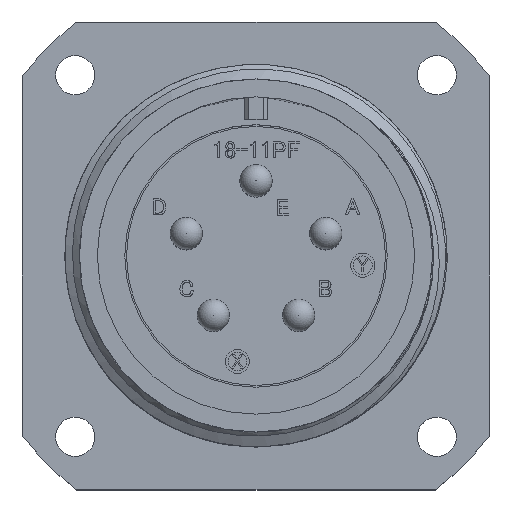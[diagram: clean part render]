
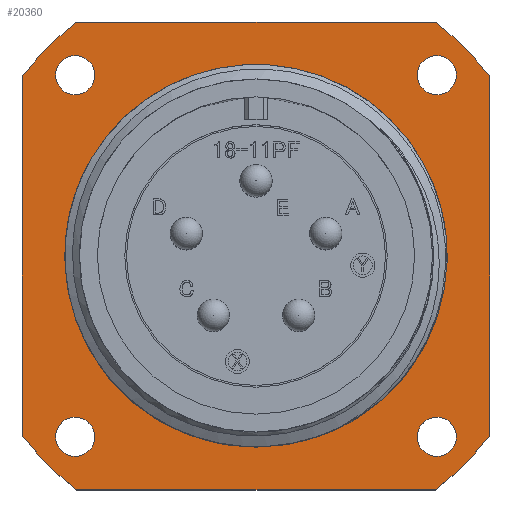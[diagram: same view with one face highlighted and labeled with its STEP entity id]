
A CAD part, top view. The second image highlights one B-rep face of the part: STEP entity #20360.
In plain terms, the highlighted planar face has unit normal (0, 0, 1).
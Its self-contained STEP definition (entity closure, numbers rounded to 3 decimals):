
#74 = CARTESIAN_POINT ( 'NONE',  ( -13.385, -17.46, -19.24 ) ) ;
#78 = EDGE_CURVE ( 'NONE', #4012, #23870, #20435, .T. ) ;
#341 = VECTOR ( 'NONE', #22551, 1000. ) ;
#344 = DIRECTION ( 'NONE',  ( 0., 0., 1. ) ) ;
#1067 = CIRCLE ( 'NONE', #10397, 14.265 ) ;
#1087 = AXIS2_PLACEMENT_3D ( 'NONE', #14559, #10711, #5124 ) ;
#1196 = CARTESIAN_POINT ( 'NONE',  ( 12.03, 13.495, -19.24 ) ) ;
#1464 = ORIENTED_EDGE ( 'NONE', *, *, #20327, .T. ) ;
#2179 = CARTESIAN_POINT ( 'NONE',  ( 0., 0., -19.24 ) ) ;
#2215 = ORIENTED_EDGE ( 'NONE', *, *, #18223, .F. ) ;
#2961 = CARTESIAN_POINT ( 'NONE',  ( 0., 0., -19.24 ) ) ;
#3067 = EDGE_LOOP ( 'NONE', ( #11776 ) ) ;
#3090 = EDGE_CURVE ( 'NONE', #23870, #12091, #10792, .T. ) ;
#3130 = DIRECTION ( 'NONE',  ( 0., 0., 1. ) ) ;
#3476 = DIRECTION ( 'NONE',  ( 0., 0., 1. ) ) ;
#3641 = EDGE_CURVE ( 'NONE', #12091, #5767, #5292, .T. ) ;
#3679 = DIRECTION ( 'NONE',  ( 1., 0., 0. ) ) ;
#3746 = CIRCLE ( 'NONE', #15171, 22. ) ;
#3781 = DIRECTION ( 'NONE',  ( 0., 0., 1. ) ) ;
#4012 = VERTEX_POINT ( 'NONE', #15680 ) ;
#4085 = VECTOR ( 'NONE', #10572, 1000. ) ;
#4123 = DIRECTION ( 'NONE',  ( -1., 0., 0. ) ) ;
#4297 = DIRECTION ( 'NONE',  ( 0., 0., 1. ) ) ;
#4354 = DIRECTION ( 'NONE',  ( 1., 0., 0. ) ) ;
#4862 = EDGE_CURVE ( 'NONE', #9061, #23700, #3746, .T. ) ;
#5124 = DIRECTION ( 'NONE',  ( -1., 0., 0. ) ) ;
#5292 = CIRCLE ( 'NONE', #14836, 22. ) ;
#5406 = ORIENTED_EDGE ( 'NONE', *, *, #22848, .T. ) ;
#5767 = VERTEX_POINT ( 'NONE', #15218 ) ;
#5853 = EDGE_LOOP ( 'NONE', ( #9289 ) ) ;
#6204 = CARTESIAN_POINT ( 'NONE',  ( -17.46, 13.385, -19.24 ) ) ;
#6974 = CARTESIAN_POINT ( 'NONE',  ( 14.96, -13.495, -19.24 ) ) ;
#7054 = ORIENTED_EDGE ( 'NONE', *, *, #3641, .T. ) ;
#7104 = EDGE_LOOP ( 'NONE', ( #22071 ) ) ;
#7134 = EDGE_CURVE ( 'NONE', #21916, #20577, #20084, .T. ) ;
#7313 = AXIS2_PLACEMENT_3D ( 'NONE', #20492, #3476, #24180 ) ;
#7402 = CIRCLE ( 'NONE', #16960, 1.465 ) ;
#7689 = CARTESIAN_POINT ( 'NONE',  ( 0., 0., -19.24 ) ) ;
#7719 = EDGE_CURVE ( 'NONE', #20577, #4012, #12934, .T. ) ;
#7745 = VECTOR ( 'NONE', #7929, 1000. ) ;
#7929 = DIRECTION ( 'NONE',  ( -1., 0., 0. ) ) ;
#7964 = CARTESIAN_POINT ( 'NONE',  ( -13.495, -13.495, -19.24 ) ) ;
#7974 = DIRECTION ( 'NONE',  ( 1., 0., 0. ) ) ;
#8374 = CIRCLE ( 'NONE', #1087, 1.465 ) ;
#8377 = CARTESIAN_POINT ( 'NONE',  ( -13.385, -17.46, -19.24 ) ) ;
#8650 = EDGE_LOOP ( 'NONE', ( #2215 ) ) ;
#8834 = VERTEX_POINT ( 'NONE', #18632 ) ;
#8959 = FACE_BOUND ( 'NONE', #3067, .T. ) ;
#9061 = VERTEX_POINT ( 'NONE', #11720 ) ;
#9289 = ORIENTED_EDGE ( 'NONE', *, *, #23792, .F. ) ;
#9511 = CARTESIAN_POINT ( 'NONE',  ( 17.46, 13.385, -19.24 ) ) ;
#9752 = LINE ( 'NONE', #10732, #4085 ) ;
#10397 = AXIS2_PLACEMENT_3D ( 'NONE', #22211, #16693, #20576 ) ;
#10572 = DIRECTION ( 'NONE',  ( 0., -1., 0. ) ) ;
#10624 = VERTEX_POINT ( 'NONE', #6974 ) ;
#10711 = DIRECTION ( 'NONE',  ( 0., 0., 1. ) ) ;
#10732 = CARTESIAN_POINT ( 'NONE',  ( -17.46, 13.385, -19.24 ) ) ;
#10758 = ORIENTED_EDGE ( 'NONE', *, *, #7134, .T. ) ;
#10792 = LINE ( 'NONE', #9511, #341 ) ;
#10886 = CARTESIAN_POINT ( 'NONE',  ( 14.265, 0., -19.24 ) ) ;
#10970 = CARTESIAN_POINT ( 'NONE',  ( -14.96, -13.495, -19.24 ) ) ;
#11720 = CARTESIAN_POINT ( 'NONE',  ( -13.385, 17.46, -19.24 ) ) ;
#11773 = AXIS2_PLACEMENT_3D ( 'NONE', #13295, #15133, #3679 ) ;
#11776 = ORIENTED_EDGE ( 'NONE', *, *, #19196, .F. ) ;
#12080 = EDGE_LOOP ( 'NONE', ( #13057, #5406, #10758, #17876, #20746, #14493, #7054, #1464 ) ) ;
#12091 = VERTEX_POINT ( 'NONE', #14638 ) ;
#12717 = VERTEX_POINT ( 'NONE', #10886 ) ;
#12865 = CIRCLE ( 'NONE', #7313, 1.465 ) ;
#12934 = LINE ( 'NONE', #8377, #19208 ) ;
#13027 = CARTESIAN_POINT ( 'NONE',  ( 17.46, -13.385, -19.24 ) ) ;
#13057 = ORIENTED_EDGE ( 'NONE', *, *, #4862, .T. ) ;
#13295 = CARTESIAN_POINT ( 'NONE',  ( -13.495, 13.495, -19.24 ) ) ;
#13622 = CARTESIAN_POINT ( 'NONE',  ( 0., 0., -19.24 ) ) ;
#14300 = DIRECTION ( 'NONE',  ( 1., 0., 0. ) ) ;
#14493 = ORIENTED_EDGE ( 'NONE', *, *, #3090, .T. ) ;
#14559 = CARTESIAN_POINT ( 'NONE',  ( 13.495, 13.495, -19.24 ) ) ;
#14615 = EDGE_CURVE ( 'NONE', #8834, #8834, #15675, .T. ) ;
#14638 = CARTESIAN_POINT ( 'NONE',  ( 17.46, 13.385, -19.24 ) ) ;
#14836 = AXIS2_PLACEMENT_3D ( 'NONE', #2961, #3130, #16331 ) ;
#15133 = DIRECTION ( 'NONE',  ( 0., 0., 1. ) ) ;
#15171 = AXIS2_PLACEMENT_3D ( 'NONE', #7689, #3781, #17460 ) ;
#15218 = CARTESIAN_POINT ( 'NONE',  ( 13.385, 17.46, -19.24 ) ) ;
#15499 = DIRECTION ( 'NONE',  ( 0., 0., 1. ) ) ;
#15539 = DIRECTION ( 'NONE',  ( 1., 0., 0. ) ) ;
#15675 = CIRCLE ( 'NONE', #11773, 1.465 ) ;
#15680 = CARTESIAN_POINT ( 'NONE',  ( 13.385, -17.46, -19.24 ) ) ;
#16121 = FACE_BOUND ( 'NONE', #8650, .T. ) ;
#16331 = DIRECTION ( 'NONE',  ( 1., 0., 0. ) ) ;
#16693 = DIRECTION ( 'NONE',  ( 0., 0., 1. ) ) ;
#16960 = AXIS2_PLACEMENT_3D ( 'NONE', #7964, #4297, #4123 ) ;
#17317 = EDGE_LOOP ( 'NONE', ( #22553 ) ) ;
#17460 = DIRECTION ( 'NONE',  ( 1., 0., 0. ) ) ;
#17606 = DIRECTION ( 'NONE',  ( 0., 0., 1. ) ) ;
#17876 = ORIENTED_EDGE ( 'NONE', *, *, #7719, .T. ) ;
#17895 = FACE_BOUND ( 'NONE', #7104, .T. ) ;
#18182 = LINE ( 'NONE', #21501, #7745 ) ;
#18223 = EDGE_CURVE ( 'NONE', #10624, #10624, #12865, .T. ) ;
#18632 = CARTESIAN_POINT ( 'NONE',  ( -12.03, 13.495, -19.24 ) ) ;
#19087 = FACE_BOUND ( 'NONE', #17317, .T. ) ;
#19196 = EDGE_CURVE ( 'NONE', #20763, #20763, #8374, .T. ) ;
#19208 = VECTOR ( 'NONE', #14300, 1000. ) ;
#19746 = CARTESIAN_POINT ( 'NONE',  ( -17.46, -13.385, -19.24 ) ) ;
#19962 = FACE_OUTER_BOUND ( 'NONE', #12080, .T. ) ;
#20084 = CIRCLE ( 'NONE', #20436, 22. ) ;
#20327 = EDGE_CURVE ( 'NONE', #5767, #9061, #18182, .T. ) ;
#20360 = ADVANCED_FACE ( 'NONE', ( #22317, #16121, #19087, #8959, #17895, #19962 ), #21338, .T. ) ;
#20435 = CIRCLE ( 'NONE', #22091, 22. ) ;
#20436 = AXIS2_PLACEMENT_3D ( 'NONE', #23151, #15499, #7974 ) ;
#20492 = CARTESIAN_POINT ( 'NONE',  ( 13.495, -13.495, -19.24 ) ) ;
#20576 = DIRECTION ( 'NONE',  ( 1., 0., 0. ) ) ;
#20577 = VERTEX_POINT ( 'NONE', #74 ) ;
#20746 = ORIENTED_EDGE ( 'NONE', *, *, #78, .T. ) ;
#20763 = VERTEX_POINT ( 'NONE', #1196 ) ;
#21338 = PLANE ( 'NONE',  #21841 ) ;
#21350 = VERTEX_POINT ( 'NONE', #10970 ) ;
#21501 = CARTESIAN_POINT ( 'NONE',  ( -13.385, 17.46, -19.24 ) ) ;
#21841 = AXIS2_PLACEMENT_3D ( 'NONE', #2179, #17606, #15539 ) ;
#21916 = VERTEX_POINT ( 'NONE', #19746 ) ;
#22071 = ORIENTED_EDGE ( 'NONE', *, *, #14615, .F. ) ;
#22091 = AXIS2_PLACEMENT_3D ( 'NONE', #13622, #344, #4354 ) ;
#22211 = CARTESIAN_POINT ( 'NONE',  ( 0., 0., -19.24 ) ) ;
#22226 = EDGE_CURVE ( 'NONE', #21350, #21350, #7402, .T. ) ;
#22317 = FACE_BOUND ( 'NONE', #5853, .T. ) ;
#22551 = DIRECTION ( 'NONE',  ( 0., 1., 0. ) ) ;
#22553 = ORIENTED_EDGE ( 'NONE', *, *, #22226, .F. ) ;
#22848 = EDGE_CURVE ( 'NONE', #23700, #21916, #9752, .T. ) ;
#23151 = CARTESIAN_POINT ( 'NONE',  ( 0., 0., -19.24 ) ) ;
#23700 = VERTEX_POINT ( 'NONE', #6204 ) ;
#23792 = EDGE_CURVE ( 'NONE', #12717, #12717, #1067, .T. ) ;
#23870 = VERTEX_POINT ( 'NONE', #13027 ) ;
#24180 = DIRECTION ( 'NONE',  ( 1., 0., 0. ) ) ;
